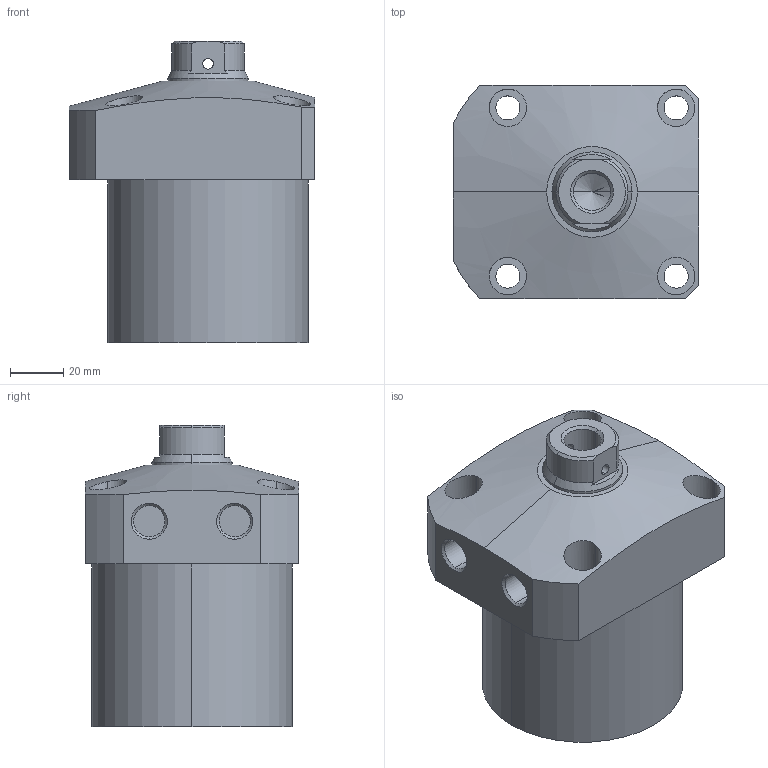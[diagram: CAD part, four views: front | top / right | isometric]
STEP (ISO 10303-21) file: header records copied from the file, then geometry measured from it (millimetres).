
FILE_DESCRIPTION (( 'STEP AP203' ), '1' );
FILE_NAME ('CLL-075CB-045.STEP', '2019-12-20T06:07:52', ( '' ), ( '' ), 'SwSTEP 2.0', 'SolidWorks 2015', '' );
FILE_SCHEMA (( 'CONFIG_CONTROL_DESIGN' ));
Length unit declared in the file: millimetre
Products named in the file (1): CLL-075CB-045
Bounding box: 92 x 80 x 113 mm (x, y, z)
Volume: 492060.5 mm3; surface area: 45727.4 mm2
Topology: 1 solids, 1 shells, 76 faces, 181 edges, 116 vertices
Faces by surface type: cylinder 39, plane 22, cone 15
Entity records: 2809 total; most frequent: CARTESIAN_POINT 932, DIRECTION 386, ORIENTED_EDGE 358, EDGE_CURVE 179, AXIS2_PLACEMENT_3D 158, VERTEX_POINT 116, EDGE_LOOP 99, CIRCLE 81
